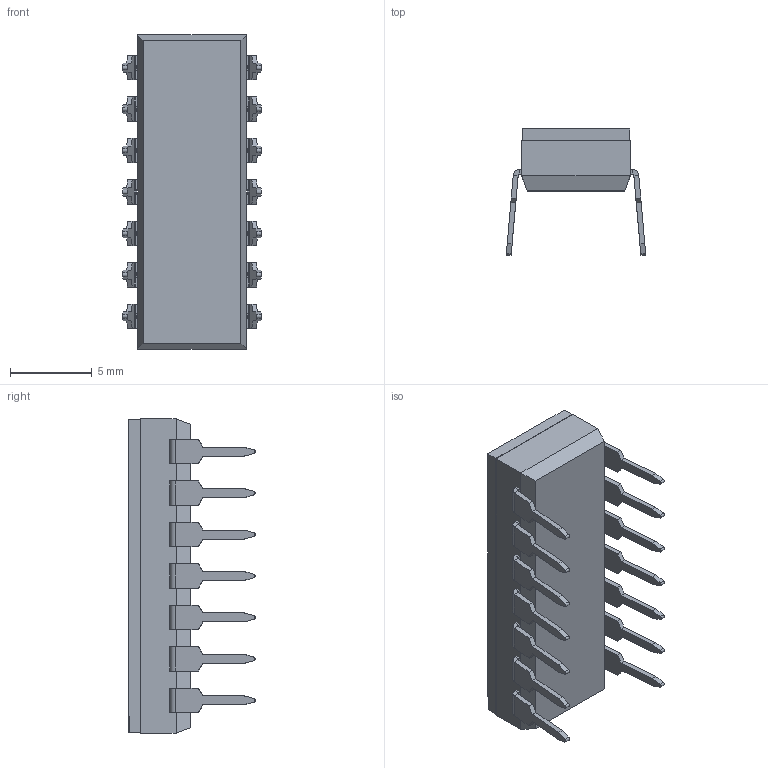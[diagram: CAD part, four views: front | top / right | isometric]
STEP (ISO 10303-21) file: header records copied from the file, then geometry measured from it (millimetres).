
FILE_DESCRIPTION (( 'STEP AP203' ), '1' );
FILE_NAME ('209-7LPS.STEP', '2019-05-24T07:14:01', ( '' ), ( '' ), 'SwSTEP 2.0', 'SolidWorks 2019', '' );
FILE_SCHEMA (( 'CONFIG_CONTROL_DESIGN' ));
Length unit declared in the file: millimetre
Products named in the file (5): 209-40-207 for 209; 219-56-001; 209-83-001-06-01 lead frame; 209-7LPS; 209-02-207 mold housing for 209
Assembly tree (16 placements, depth 2):
  209-7LPS
    209-02-207 mold housing for 209
    209-40-207 for 209
    219-56-001  x7
    209-83-001-06-01 lead frame  x7
Bounding box: 8.55 x 7.76 x 19.26 mm (x, y, z)
Volume: 416 mm3; surface area: 1367.5 mm2
Topology: 23 solids, 23 shells, 1013 faces, 2600 edges, 1648 vertices
Faces by surface type: plane 636, bspline 195, cylinder 154, sphere 28
Entity records: 25781 total; most frequent: CARTESIAN_POINT 13989, ORIENTED_EDGE 2600, DIRECTION 1584, EDGE_CURVE 1300, LINE 866, VECTOR 866, VERTEX_POINT 856, EDGE_LOOP 546
